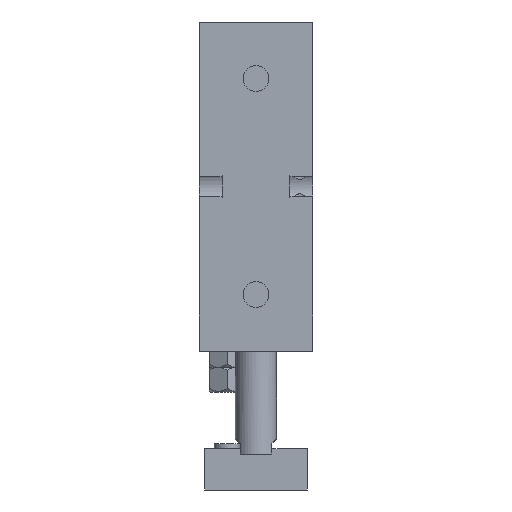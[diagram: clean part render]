
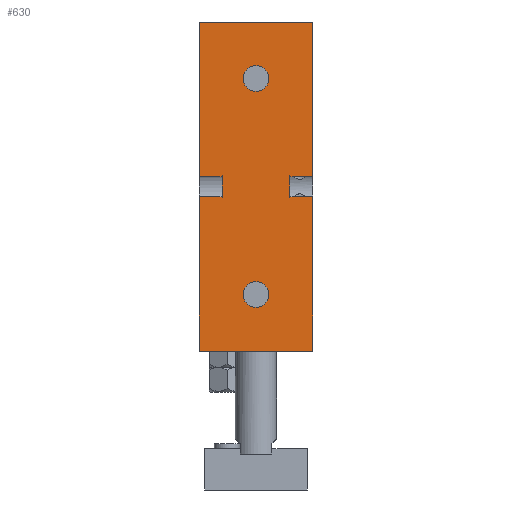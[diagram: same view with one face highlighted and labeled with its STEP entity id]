
A CAD part, front view. The second image highlights one B-rep face of the part: STEP entity #630.
In plain terms, the highlighted planar face has unit normal (0, -1, 0).
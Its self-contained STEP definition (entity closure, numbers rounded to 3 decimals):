
#121=CARTESIAN_POINT('',(2.5,-27.0,80.0));
#122=VERTEX_POINT('',#121);
#123=CARTESIAN_POINT('',(0.0,-27.0,80.0));
#124=DIRECTION('',(0.0,1.0,0.0));
#125=DIRECTION('',(-1.0,0.0,0.0));
#126=AXIS2_PLACEMENT_3D('',#123,#124,#125);
#127=CIRCLE('',#126,2.5);
#128=EDGE_CURVE('',#122,#122,#127,.T.);
#158=CARTESIAN_POINT('',(2.5,-27.0,38.0));
#159=VERTEX_POINT('',#158);
#160=CARTESIAN_POINT('',(0.0,-27.0,38.0));
#161=DIRECTION('',(0.0,1.0,0.0));
#162=DIRECTION('',(-1.0,0.0,0.0));
#163=AXIS2_PLACEMENT_3D('',#160,#161,#162);
#164=CIRCLE('',#163,2.5);
#165=EDGE_CURVE('',#159,#159,#164,.T.);
#411=CARTESIAN_POINT('',(-6.6,-27.0,60.936));
#412=VERTEX_POINT('',#411);
#413=CARTESIAN_POINT('',(-6.6,-27.0,57.064));
#414=VERTEX_POINT('',#413);
#415=CARTESIAN_POINT('',(-6.6,-27.0,60.936));
#416=DIRECTION('',(0.0,0.0,-1.0));
#417=VECTOR('',#416,3.873);
#418=LINE('',#415,#417);
#419=EDGE_CURVE('',#412,#414,#418,.T.);
#468=CARTESIAN_POINT('',(-11.,-27.0,60.936));
#469=VERTEX_POINT('',#468);
#470=CARTESIAN_POINT('',(-11.,-27.0,60.936));
#471=DIRECTION('',(1.0,0.0,0.0));
#472=VECTOR('',#471,4.4);
#473=LINE('',#470,#472);
#474=EDGE_CURVE('',#469,#412,#473,.T.);
#476=CARTESIAN_POINT('',(-11.,-27.0,57.064));
#477=VERTEX_POINT('',#476);
#485=CARTESIAN_POINT('',(-6.6,-27.0,57.064));
#486=DIRECTION('',(-1.0,0.0,0.0));
#487=VECTOR('',#486,4.4);
#488=LINE('',#485,#487);
#489=EDGE_CURVE('',#414,#477,#488,.T.);
#544=CARTESIAN_POINT('',(11.,-27.0,27.0));
#545=DIRECTION('',(0.0,-1.0,0.0));
#546=DIRECTION('',(0.0,0.0,-1.0));
#547=AXIS2_PLACEMENT_3D('',#544,#545,#546);
#548=PLANE('',#547);
#549=ORIENTED_EDGE('',*,*,#474,.T.);
#550=ORIENTED_EDGE('',*,*,#419,.T.);
#551=ORIENTED_EDGE('',*,*,#489,.T.);
#552=CARTESIAN_POINT('',(-11.,-27.0,27.0));
#553=VERTEX_POINT('',#552);
#554=CARTESIAN_POINT('',(-11.,-27.0,27.0));
#555=DIRECTION('',(0.0,0.0,1.0));
#556=VECTOR('',#555,30.064);
#557=LINE('',#554,#556);
#558=EDGE_CURVE('',#553,#477,#557,.T.);
#559=ORIENTED_EDGE('',*,*,#558,.F.);
#560=CARTESIAN_POINT('',(11.,-27.0,27.0));
#561=VERTEX_POINT('',#560);
#562=CARTESIAN_POINT('',(11.,-27.0,27.0));
#563=DIRECTION('',(-1.0,0.0,0.0));
#564=VECTOR('',#563,22.);
#565=LINE('',#562,#564);
#566=EDGE_CURVE('',#561,#553,#565,.T.);
#567=ORIENTED_EDGE('',*,*,#566,.F.);
#568=CARTESIAN_POINT('',(11.,-27.0,57.064));
#569=VERTEX_POINT('',#568);
#570=CARTESIAN_POINT('',(11.,-27.0,27.0));
#571=DIRECTION('',(0.0,0.0,1.0));
#572=VECTOR('',#571,30.064);
#573=LINE('',#570,#572);
#574=EDGE_CURVE('',#561,#569,#573,.T.);
#575=ORIENTED_EDGE('',*,*,#574,.T.);
#576=CARTESIAN_POINT('',(6.6,-27.0,57.064));
#577=VERTEX_POINT('',#576);
#578=CARTESIAN_POINT('',(11.,-27.0,57.064));
#579=DIRECTION('',(-1.0,0.0,0.0));
#580=VECTOR('',#579,4.4);
#581=LINE('',#578,#580);
#582=EDGE_CURVE('',#569,#577,#581,.T.);
#583=ORIENTED_EDGE('',*,*,#582,.T.);
#584=CARTESIAN_POINT('',(6.6,-27.0,60.936));
#585=VERTEX_POINT('',#584);
#586=CARTESIAN_POINT('',(6.6,-27.0,57.064));
#587=DIRECTION('',(0.0,0.0,1.0));
#588=VECTOR('',#587,3.873);
#589=LINE('',#586,#588);
#590=EDGE_CURVE('',#577,#585,#589,.T.);
#591=ORIENTED_EDGE('',*,*,#590,.T.);
#592=CARTESIAN_POINT('',(11.,-27.0,60.936));
#593=VERTEX_POINT('',#592);
#594=CARTESIAN_POINT('',(6.6,-27.0,60.936));
#595=DIRECTION('',(1.0,0.0,0.0));
#596=VECTOR('',#595,4.4);
#597=LINE('',#594,#596);
#598=EDGE_CURVE('',#585,#593,#597,.T.);
#599=ORIENTED_EDGE('',*,*,#598,.T.);
#600=CARTESIAN_POINT('',(11.,-27.0,91.));
#601=VERTEX_POINT('',#600);
#602=CARTESIAN_POINT('',(11.,-27.0,60.936));
#603=DIRECTION('',(0.0,0.0,1.0));
#604=VECTOR('',#603,30.064);
#605=LINE('',#602,#604);
#606=EDGE_CURVE('',#593,#601,#605,.T.);
#607=ORIENTED_EDGE('',*,*,#606,.T.);
#608=CARTESIAN_POINT('',(-11.,-27.0,91.));
#609=VERTEX_POINT('',#608);
#610=CARTESIAN_POINT('',(11.,-27.0,91.));
#611=DIRECTION('',(-1.0,0.0,0.0));
#612=VECTOR('',#611,22.);
#613=LINE('',#610,#612);
#614=EDGE_CURVE('',#601,#609,#613,.T.);
#615=ORIENTED_EDGE('',*,*,#614,.T.);
#616=CARTESIAN_POINT('',(-11.,-27.0,60.936));
#617=DIRECTION('',(0.0,0.0,1.0));
#618=VECTOR('',#617,30.064);
#619=LINE('',#616,#618);
#620=EDGE_CURVE('',#469,#609,#619,.T.);
#621=ORIENTED_EDGE('',*,*,#620,.F.);
#622=EDGE_LOOP('',(#549,#550,#551,#559,#567,#575,#583,#591,#599,#607,#615,#621));
#623=FACE_OUTER_BOUND('',#622,.T.);
#624=ORIENTED_EDGE('',*,*,#128,.T.);
#625=EDGE_LOOP('',(#624));
#626=FACE_BOUND('',#625,.T.);
#627=ORIENTED_EDGE('',*,*,#165,.T.);
#628=EDGE_LOOP('',(#627));
#629=FACE_BOUND('',#628,.T.);
#630=ADVANCED_FACE('',(#623,#626,#629),#548,.T.);
